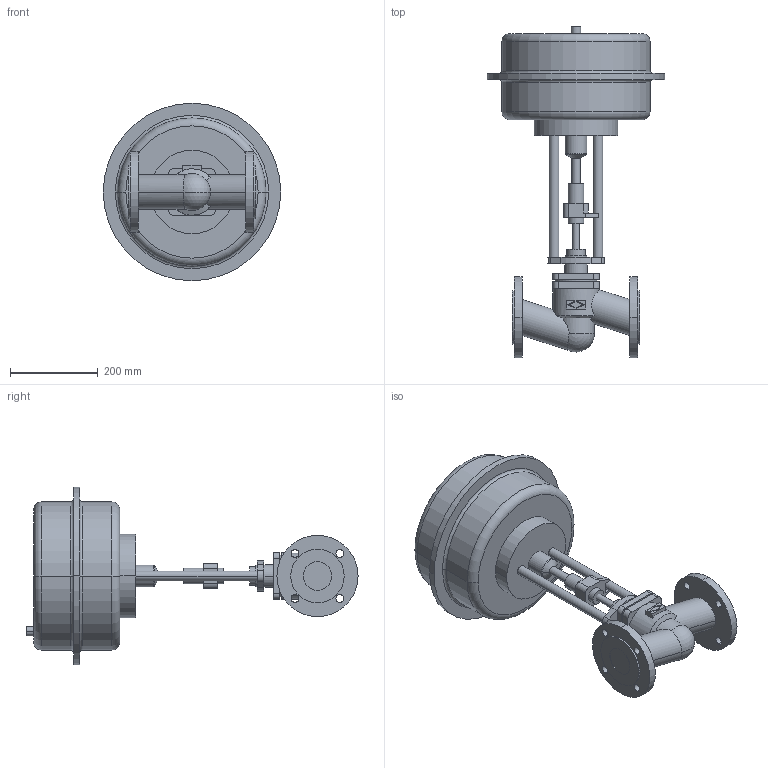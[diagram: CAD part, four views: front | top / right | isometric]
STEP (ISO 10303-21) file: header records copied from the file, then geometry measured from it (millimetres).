
FILE_DESCRIPTION(('OneSpaceDesigner STEP Export'),'2;1');
FILE_NAME('c000001492.stp','2005-02-15T 9:34:08',(''),(''),'OneSpace Designer STEP processor (Jan. 2003) for AP203(Solid Model)','OneSpace Designer 12.01D 09-Jul-2004 (C) CoCreate Software GmbH','');
FILE_SCHEMA(('CONFIG_CONTROL_DESIGN'));
Length unit declared in the file: millimetre
Products named in the file (2): 1; 2
Bounding box: 405 x 757.5 x 405 mm (x, y, z)
Volume: 22922125.5 mm3; surface area: 802959.3 mm2
Topology: 2 solids, 2 shells, 168 faces, 402 edges, 263 vertices
Faces by surface type: cylinder 84, plane 68, torus 10, cone 4, sphere 2
Entity records: 4825 total; most frequent: CARTESIAN_POINT 1018, ORIENTED_EDGE 800, DIRECTION 685, EDGE_CURVE 400, VERTEX_POINT 263, AXIS2_PLACEMENT_3D 247, EDGE_LOOP 211, VECTOR 191
